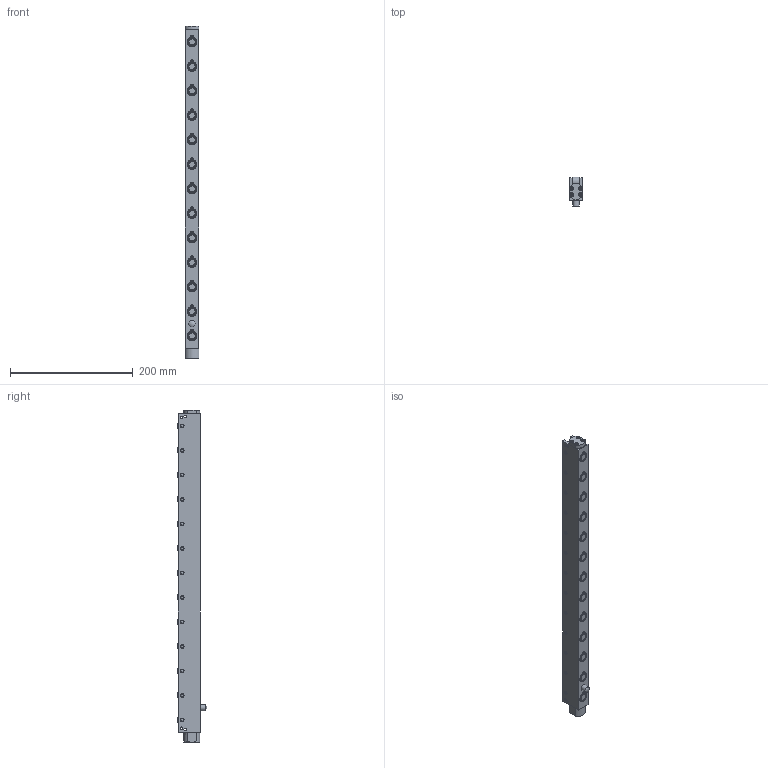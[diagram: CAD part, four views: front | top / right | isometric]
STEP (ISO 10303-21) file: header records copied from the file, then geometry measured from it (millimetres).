
FILE_DESCRIPTION(/* description */ (''),/* implementation_level */ '2;1');
FILE_NAME(/* name */ 'S:\EASCN Vault\Designs\Standard Part\DIE LIFTERS\EHR\EHR- 3D step\EHR22 - 3D step complete serie\EHR22-13.stp',/* time_stamp */ '2019-07-30T16:17:57+08:00',/* author */ ('yue.yang'),/* organization */ (''),/* preprocessor_version */ 'ST-DEVELOPER v17',/* originating_system */ 'Autodesk Inventor 2019',/* authorisation */ '');
FILE_SCHEMA (('AUTOMOTIVE_DESIGN { 1 0 10303 214 3 1 1 }'));
Length unit declared in the file: millimetre
Products named in the file (1): EHR22-13_Shrinkwrap_1
Bounding box: 21.8 x 48.05 x 542 mm (x, y, z)
Volume: 328962.9 mm3; surface area: 129296.7 mm2
Topology: 1 solids, 1 shells, 876 faces, 2483 edges, 1724 vertices
Faces by surface type: cylinder 289, plane 259, cone 158, torus 143, sphere 27
Full cylindrical faces by diameter (mm): 3 x9, 3.2 x8, 4 x8, 5 x52, 6 x22, 8.566 x1, 10 x3, 11 x13, 12.5 x26, 13.4 x13, 13.8 x13, 15.95 x26, 16 x39
Entity records: 32033 total; most frequent: CARTESIAN_POINT 7256, DIRECTION 5476, ORIENTED_EDGE 4924, EDGE_CURVE 2462, AXIS2_PLACEMENT_3D 2408, VERTEX_POINT 1724, CIRCLE 1531, EDGE_LOOP 1054
